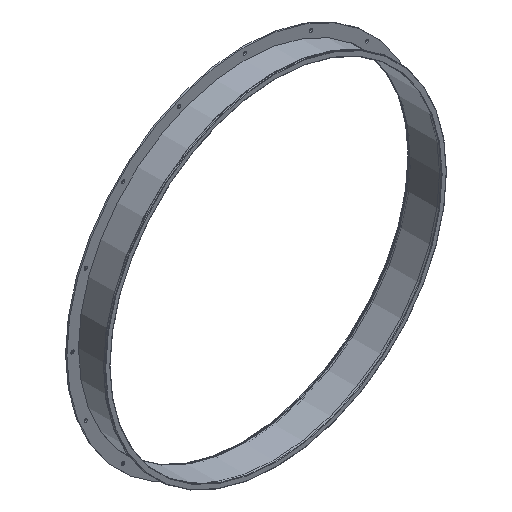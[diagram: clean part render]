
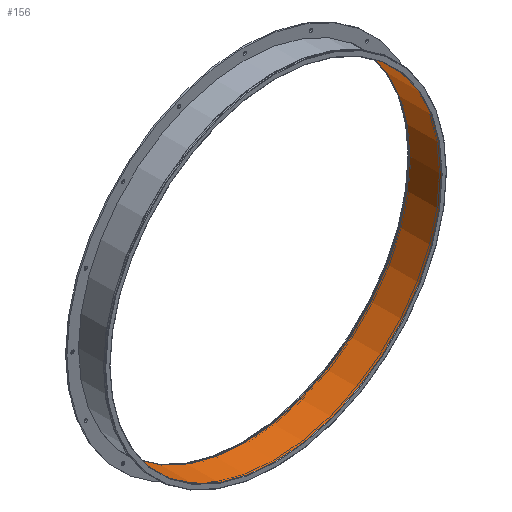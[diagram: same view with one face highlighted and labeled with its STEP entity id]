
A CAD part, isometric view. The second image highlights one B-rep face of the part: STEP entity #156.
In plain terms, the highlighted cylindrical face has radius 500 mm (diameter 1000 mm), a full revolution.
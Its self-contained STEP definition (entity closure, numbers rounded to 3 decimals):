
#126=CYLINDRICAL_SURFACE('',#755,500.);
#156=ADVANCED_FACE('',(#261,#262),#126,.F.);
#261=FACE_BOUND('',#373,.T.);
#262=FACE_BOUND('',#374,.T.);
#373=EDGE_LOOP('',(#485));
#374=EDGE_LOOP('',(#486));
#485=ORIENTED_EDGE('',*,*,#616,.T.);
#486=ORIENTED_EDGE('',*,*,#617,.T.);
#560=VERTEX_POINT('',#1088);
#561=VERTEX_POINT('',#1090);
#616=EDGE_CURVE('',#560,#560,#672,.T.);
#617=EDGE_CURVE('',#561,#561,#673,.T.);
#672=CIRCLE('',#753,500.);
#673=CIRCLE('',#754,500.);
#753=AXIS2_PLACEMENT_3D('',#1087,#918,#919);
#754=AXIS2_PLACEMENT_3D('',#1089,#920,#921);
#755=AXIS2_PLACEMENT_3D('',#1091,#922,#923);
#918=DIRECTION('',(0.,-1.,0.));
#919=DIRECTION('',(-1.,0.,0.));
#920=DIRECTION('',(0.,1.,0.));
#921=DIRECTION('',(1.,0.,0.));
#922=DIRECTION('',(0.,1.,0.));
#923=DIRECTION('',(1.,0.,0.));
#1087=CARTESIAN_POINT('',(0.,1.2,0.));
#1088=CARTESIAN_POINT('',(-500.,1.2,0.));
#1089=CARTESIAN_POINT('',(0.,98.8,0.));
#1090=CARTESIAN_POINT('',(500.,98.8,0.));
#1091=CARTESIAN_POINT('',(0.,-192.076,0.));
